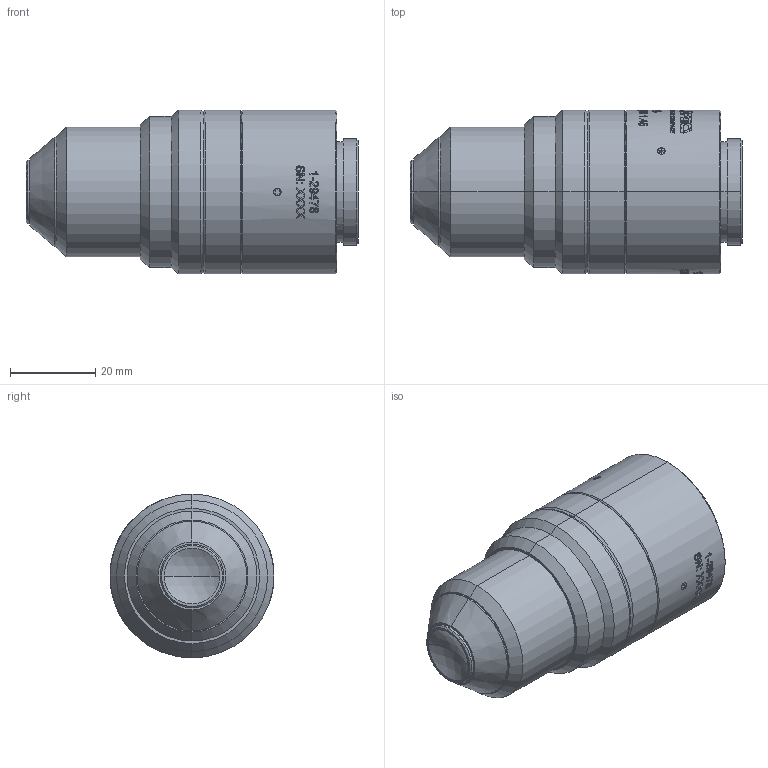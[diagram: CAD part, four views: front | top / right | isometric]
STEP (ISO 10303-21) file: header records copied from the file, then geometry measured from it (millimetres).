
FILE_DESCRIPTION (( 'STEP AP214' ), '1' );
FILE_NAME ('1-29478 (54-12-8 at 480-1000nm) REV A.STEP', '2019-03-05T23:37:45', ( '' ), ( '' ), 'SwSTEP 2.0', 'SolidWorks 2019', '' );
FILE_SCHEMA (( 'AUTOMOTIVE_DESIGN' ));
Length unit declared in the file: millimetre
Products named in the file (1): 1-29478 (54-12-8 at 480-1000nm) REV A
Bounding box: 78 x 38.5 x 38.5 mm (x, y, z)
Volume: 68278.9 mm3; surface area: 12568.2 mm2
Topology: 1 solids, 7 shells, 1019 faces, 2619 edges, 1723 vertices
Faces by surface type: bspline 433, plane 370, cylinder 156, cone 52, torus 4, sphere 4
Entity records: 74370 total; most frequent: CARTESIAN_POINT 42146, ORIENTED_EDGE 5218, DIRECTION 2898, EDGE_CURVE 2609, VERTEX_POINT 1723, B_SPLINE_CURVE_WITH_KNOTS 1449, AXIS2_PLACEMENT_3D 1151, EDGE_LOOP 1144
